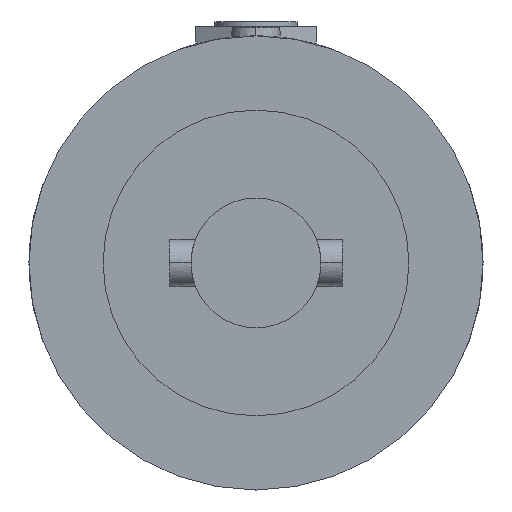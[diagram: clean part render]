
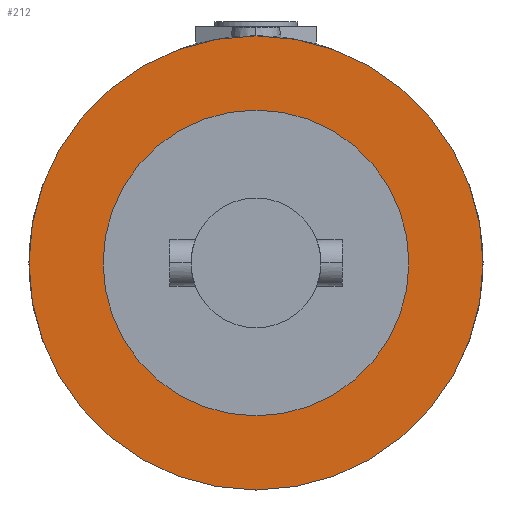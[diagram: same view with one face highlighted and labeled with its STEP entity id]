
A CAD part, left-side view. The second image highlights one B-rep face of the part: STEP entity #212.
In plain terms, the highlighted planar face has unit normal (-1, 0, 0).
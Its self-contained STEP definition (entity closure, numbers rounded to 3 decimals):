
#212=ADVANCED_FACE('',(#511,#512),#513,.T.);
#511=FACE_BOUND('',#811,.T.);
#512=FACE_OUTER_BOUND('',#812,.T.);
#513=PLANE('',#813);
#811=EDGE_LOOP('',(#1865,#1866));
#812=EDGE_LOOP('',(#1867,#1868));
#813=AXIS2_PLACEMENT_3D('',#1869,#1870,#1871);
#1865=ORIENTED_EDGE('',*,*,#1920,.T.);
#1866=ORIENTED_EDGE('',*,*,#2186,.T.);
#1867=ORIENTED_EDGE('',*,*,#2193,.T.);
#1868=ORIENTED_EDGE('',*,*,#1885,.T.);
#1869=CARTESIAN_POINT('',(34.5,0.0,0.0));
#1870=DIRECTION('',(-1.0,0.0,0.));
#1871=DIRECTION('',(0.,0.0,1.0));
#1885=EDGE_CURVE('',#2217,#2214,#2218,.T.);
#1920=EDGE_CURVE('',#2281,#2285,#2287,.T.);
#2186=EDGE_CURVE('',#2285,#2281,#2718,.T.);
#2193=EDGE_CURVE('',#2214,#2217,#2725,.T.);
#2214=VERTEX_POINT('',#2746);
#2217=VERTEX_POINT('',#2750);
#2218=CIRCLE('',#2751,24.5);
#2281=VERTEX_POINT('',#2930);
#2285=VERTEX_POINT('',#2935);
#2287=CIRCLE('',#2938,16.5);
#2718=CIRCLE('',#4504,16.5);
#2725=CIRCLE('',#4511,24.5);
#2746=CARTESIAN_POINT('',(34.5,0.0,-24.5));
#2750=CARTESIAN_POINT('',(34.5,0.,24.5));
#2751=AXIS2_PLACEMENT_3D('',#4549,#4550,#4551);
#2930=CARTESIAN_POINT('',(34.5,0.0,-16.5));
#2935=CARTESIAN_POINT('',(34.5,0.,16.5));
#2938=AXIS2_PLACEMENT_3D('',#4604,#4605,#4606);
#4504=AXIS2_PLACEMENT_3D('',#5038,#5039,#5040);
#4511=AXIS2_PLACEMENT_3D('',#5059,#5060,#5061);
#4549=CARTESIAN_POINT('',(34.5,0.0,0.0));
#4550=DIRECTION('',(-1.0,0.0,0.));
#4551=DIRECTION('',(0.,0.0,-1.0));
#4604=CARTESIAN_POINT('',(34.5,0.0,0.0));
#4605=DIRECTION('',(1.0,0.0,0.));
#4606=DIRECTION('',(0.,0.0,-1.0));
#5038=CARTESIAN_POINT('',(34.5,0.0,0.0));
#5039=DIRECTION('',(1.0,0.0,0.));
#5040=DIRECTION('',(0.,0.0,-1.0));
#5059=CARTESIAN_POINT('',(34.5,0.0,0.0));
#5060=DIRECTION('',(-1.0,0.0,0.));
#5061=DIRECTION('',(0.,0.0,-1.0));
